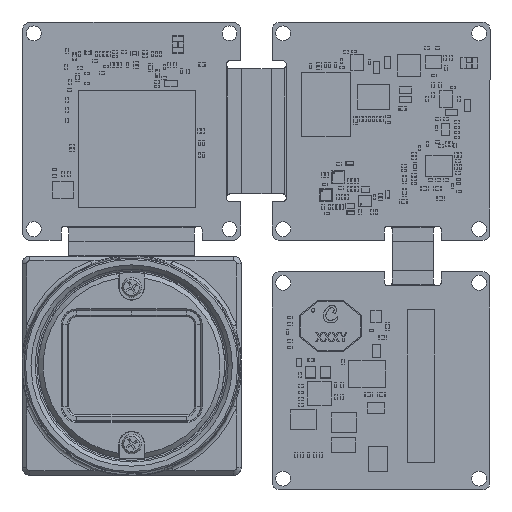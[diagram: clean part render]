
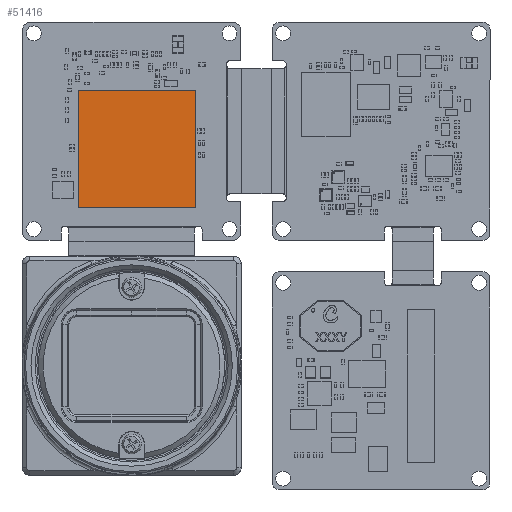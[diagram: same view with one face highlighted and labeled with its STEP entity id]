
A CAD part, top view. The second image highlights one B-rep face of the part: STEP entity #51416.
In plain terms, the highlighted planar face has unit normal (0, 0, 1).
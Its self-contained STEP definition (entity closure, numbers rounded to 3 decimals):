
#2539 = ORIENTED_EDGE ( 'NONE', *, *, #70444, .T. ) ;
#15203 = LINE ( 'NONE', #209637, #338678 ) ;
#42978 = VERTEX_POINT ( 'NONE', #239016 ) ;
#51416 = ADVANCED_FACE ( 'NONE', ( #175220 ), #183998, .F. ) ;
#58761 = LINE ( 'NONE', #201108, #157255 ) ;
#60046 = AXIS2_PLACEMENT_3D ( 'NONE', #214009, #208868, #360800 ) ;
#66749 = CARTESIAN_POINT ( 'NONE',  ( -6.84, 35.199, -0.735 ) ) ;
#70444 = EDGE_CURVE ( 'NONE', #137813, #215045, #15203, .T. ) ;
#100154 = EDGE_LOOP ( 'NONE', ( #152852, #115245, #264234, #2539 ) ) ;
#105968 = DIRECTION ( 'NONE',  ( 0., 1., 0. ) ) ;
#114010 = VERTEX_POINT ( 'NONE', #269480 ) ;
#115245 = ORIENTED_EDGE ( 'NONE', *, *, #280402, .T. ) ;
#124369 = DIRECTION ( 'NONE',  ( 0., -1., 0. ) ) ;
#137813 = VERTEX_POINT ( 'NONE', #185441 ) ;
#152852 = ORIENTED_EDGE ( 'NONE', *, *, #206948, .T. ) ;
#157255 = VECTOR ( 'NONE', #233780, 1000. ) ;
#175220 = FACE_OUTER_BOUND ( 'NONE', #100154, .T. ) ;
#183998 = PLANE ( 'NONE',  #60046 ) ;
#185441 = CARTESIAN_POINT ( 'NONE',  ( 8.16, 35.199, -0.735 ) ) ;
#197640 = CARTESIAN_POINT ( 'NONE',  ( 8.16, 20.199, -0.735 ) ) ;
#201108 = CARTESIAN_POINT ( 'NONE',  ( -6.84, 20.199, -0.735 ) ) ;
#206948 = EDGE_CURVE ( 'NONE', #215045, #42978, #327706, .T. ) ;
#208868 = DIRECTION ( 'NONE',  ( 0., 0., -1. ) ) ;
#209637 = CARTESIAN_POINT ( 'NONE',  ( 8.16, 35.199, -0.735 ) ) ;
#214009 = CARTESIAN_POINT ( 'NONE',  ( 8.16, 35.199, -0.735 ) ) ;
#215045 = VERTEX_POINT ( 'NONE', #369136 ) ;
#233780 = DIRECTION ( 'NONE',  ( 1., 0., 0. ) ) ;
#239016 = CARTESIAN_POINT ( 'NONE',  ( -6.84, 20.199, -0.735 ) ) ;
#258817 = VECTOR ( 'NONE', #105968, 1000. ) ;
#264234 = ORIENTED_EDGE ( 'NONE', *, *, #353884, .T. ) ;
#269480 = CARTESIAN_POINT ( 'NONE',  ( 8.16, 20.199, -0.735 ) ) ;
#269840 = DIRECTION ( 'NONE',  ( -1., 0., 0. ) ) ;
#280402 = EDGE_CURVE ( 'NONE', #42978, #114010, #58761, .T. ) ;
#285587 = VECTOR ( 'NONE', #124369, 1000. ) ;
#327706 = LINE ( 'NONE', #66749, #285587 ) ;
#338678 = VECTOR ( 'NONE', #269840, 1000. ) ;
#347982 = LINE ( 'NONE', #197640, #258817 ) ;
#353884 = EDGE_CURVE ( 'NONE', #114010, #137813, #347982, .T. ) ;
#360800 = DIRECTION ( 'NONE',  ( 0., -1., 0. ) ) ;
#369136 = CARTESIAN_POINT ( 'NONE',  ( -6.84, 35.199, -0.735 ) ) ;
